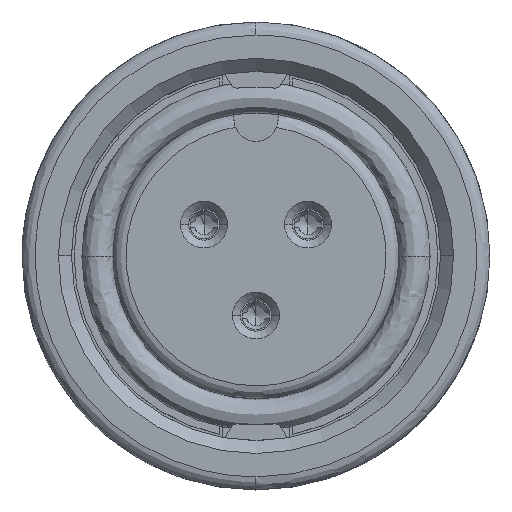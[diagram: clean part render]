
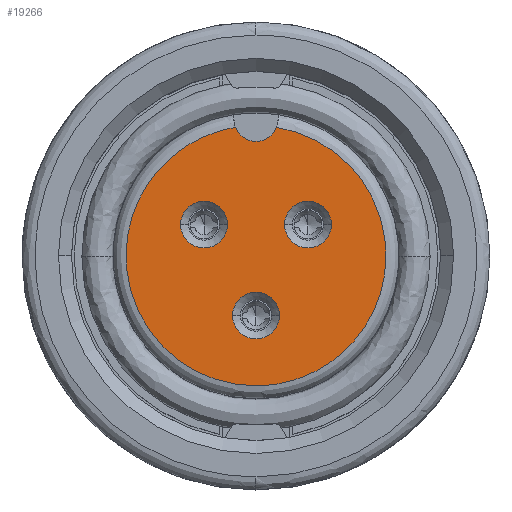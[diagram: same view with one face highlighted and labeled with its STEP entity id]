
A CAD part, top view. The second image highlights one B-rep face of the part: STEP entity #19266.
In plain terms, the highlighted planar face has unit normal (0, 0, 1).
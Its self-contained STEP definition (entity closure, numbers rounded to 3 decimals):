
#1035 = EDGE_CURVE ( 'NONE', #3845, #6038, #11903, .T. ) ;
#1093 = CARTESIAN_POINT ( 'NONE',  ( 0., -2.3, 0. ) ) ;
#1133 = CARTESIAN_POINT ( 'NONE',  ( 0.79, 4.937, 0. ) ) ;
#1218 = CARTESIAN_POINT ( 'NONE',  ( -8.571, -4.896, 0. ) ) ;
#1560 = VERTEX_POINT ( 'NONE', #10299 ) ;
#1724 = ORIENTED_EDGE ( 'NONE', *, *, #2228, .F. ) ;
#2228 = EDGE_CURVE ( 'NONE', #18572, #15203, #29807, .T. ) ;
#2408 = DIRECTION ( 'NONE',  ( 0., 0., 1. ) ) ;
#2431 = CIRCLE ( 'NONE', #22660, 0.85 ) ;
#2528 = DIRECTION ( 'NONE',  ( 0., 0., -1. ) ) ;
#2998 = CARTESIAN_POINT ( 'NONE',  ( -2.9, 1.2, 0. ) ) ;
#3011 = ORIENTED_EDGE ( 'NONE', *, *, #23021, .T. ) ;
#3637 = DIRECTION ( 'NONE',  ( 1., 0., 0. ) ) ;
#3811 = CARTESIAN_POINT ( 'NONE',  ( -0.79, 4.937, 0. ) ) ;
#3845 = VERTEX_POINT ( 'NONE', #14098 ) ;
#4371 = DIRECTION ( 'NONE',  ( 1., 0., 0. ) ) ;
#4484 = CARTESIAN_POINT ( 'NONE',  ( -2., 1.2, 0. ) ) ;
#4834 = CIRCLE ( 'NONE', #9663, 0.9 ) ;
#5277 = CIRCLE ( 'NONE', #17788, 0.9 ) ;
#5599 = ORIENTED_EDGE ( 'NONE', *, *, #24186, .T. ) ;
#6038 = VERTEX_POINT ( 'NONE', #2998 ) ;
#6067 = VERTEX_POINT ( 'NONE', #7510 ) ;
#6725 =( BOUNDED_CURVE ( )  B_SPLINE_CURVE ( 3, ( #26268, #1218, #7700, #21883 ),
 .UNSPECIFIED., .F., .F. ) 
 B_SPLINE_CURVE_WITH_KNOTS ( ( 4, 4 ),
 ( 0., 1. ),
 .UNSPECIFIED. ) 
 CURVE ( )  GEOMETRIC_REPRESENTATION_ITEM ( )  RATIONAL_B_SPLINE_CURVE ( ( 1., 0.39, 0.39, 1. ) ) 
 REPRESENTATION_ITEM ( '' )  );
#6938 = PLANE ( 'NONE',  #16672 ) ;
#7510 = CARTESIAN_POINT ( 'NONE',  ( 1.1, 1.2, 0. ) ) ;
#7551 = CARTESIAN_POINT ( 'NONE',  ( 0.79, 4.937, 0. ) ) ;
#7700 = CARTESIAN_POINT ( 'NONE',  ( -9.194, 3.592, 0. ) ) ;
#7703 = CIRCLE ( 'NONE', #21677, 0.9 ) ;
#7936 = CARTESIAN_POINT ( 'NONE',  ( -0.061, -5., 0. ) ) ;
#8185 = EDGE_CURVE ( 'NONE', #1560, #24834, #19243, .T. ) ;
#8597 = ORIENTED_EDGE ( 'NONE', *, *, #8185, .T. ) ;
#8659 = VERTEX_POINT ( 'NONE', #3811 ) ;
#8747 = FACE_BOUND ( 'NONE', #15633, .T. ) ;
#8749 = DIRECTION ( 'NONE',  ( 0., 0., -1. ) ) ;
#9085 = EDGE_LOOP ( 'NONE', ( #3011, #12628 ) ) ;
#9100 = EDGE_CURVE ( 'NONE', #24834, #1560, #5277, .T. ) ;
#9507 = AXIS2_PLACEMENT_3D ( 'NONE', #13004, #17237, #3637 ) ;
#9663 = AXIS2_PLACEMENT_3D ( 'NONE', #29401, #17923, #15817 ) ;
#9718 = CARTESIAN_POINT ( 'NONE',  ( 2.9, 1.2, 0. ) ) ;
#10127 = ORIENTED_EDGE ( 'NONE', *, *, #21445, .T. ) ;
#10136 = DIRECTION ( 'NONE',  ( 1., 0., 0. ) ) ;
#10299 = CARTESIAN_POINT ( 'NONE',  ( 0.9, -2.3, 0. ) ) ;
#10709 = CARTESIAN_POINT ( 'NONE',  ( -0.061, -5., 0. ) ) ;
#11903 = CIRCLE ( 'NONE', #9507, 0.9 ) ;
#11973 = ORIENTED_EDGE ( 'NONE', *, *, #21780, .T. ) ;
#12554 = DIRECTION ( 'NONE',  ( 0., 0., -1. ) ) ;
#12628 = ORIENTED_EDGE ( 'NONE', *, *, #1035, .T. ) ;
#13004 = CARTESIAN_POINT ( 'NONE',  ( -2., 1.2, 0. ) ) ;
#13490 = AXIS2_PLACEMENT_3D ( 'NONE', #29440, #8749, #4371 ) ;
#13875 = CARTESIAN_POINT ( 'NONE',  ( 0.001, -0.031, 0. ) ) ;
#14098 = CARTESIAN_POINT ( 'NONE',  ( -1.1, 1.2, 0. ) ) ;
#15203 = VERTEX_POINT ( 'NONE', #7936 ) ;
#15416 = VERTEX_POINT ( 'NONE', #9718 ) ;
#15633 = EDGE_LOOP ( 'NONE', ( #11973, #10127 ) ) ;
#15817 = DIRECTION ( 'NONE',  ( 1., 0., 0. ) ) ;
#16002 = FACE_OUTER_BOUND ( 'NONE', #20745, .T. ) ;
#16672 = AXIS2_PLACEMENT_3D ( 'NONE', #13875, #2408, #29438 ) ;
#17183 = DIRECTION ( 'NONE',  ( 0., 0., -1. ) ) ;
#17237 = DIRECTION ( 'NONE',  ( 0., 0., -1. ) ) ;
#17788 = AXIS2_PLACEMENT_3D ( 'NONE', #1093, #12554, #10136 ) ;
#17923 = DIRECTION ( 'NONE',  ( 0., 0., -1. ) ) ;
#18380 = DIRECTION ( 'NONE',  ( 1., 0., 0. ) ) ;
#18549 = FACE_BOUND ( 'NONE', #9085, .T. ) ;
#18572 = VERTEX_POINT ( 'NONE', #1133 ) ;
#19243 = CIRCLE ( 'NONE', #27418, 0.9 ) ;
#19266 = ADVANCED_FACE ( 'NONE', ( #25350, #18549, #8747, #16002 ), #6938, .T. ) ;
#20266 = CIRCLE ( 'NONE', #13490, 0.9 ) ;
#20458 = CARTESIAN_POINT ( 'NONE',  ( 0., 5.25, 0. ) ) ;
#20628 = ORIENTED_EDGE ( 'NONE', *, *, #29786, .F. ) ;
#20745 = EDGE_LOOP ( 'NONE', ( #1724, #5599, #20628 ) ) ;
#20935 = EDGE_LOOP ( 'NONE', ( #27540, #8597 ) ) ;
#21445 = EDGE_CURVE ( 'NONE', #15416, #6067, #20266, .T. ) ;
#21677 = AXIS2_PLACEMENT_3D ( 'NONE', #4484, #2528, #18380 ) ;
#21780 = EDGE_CURVE ( 'NONE', #6067, #15416, #4834, .T. ) ;
#21883 = CARTESIAN_POINT ( 'NONE',  ( -0.79, 4.937, 0. ) ) ;
#22660 = AXIS2_PLACEMENT_3D ( 'NONE', #20458, #29664, #29364 ) ;
#22974 = CARTESIAN_POINT ( 'NONE',  ( -0.9, -2.3, 0. ) ) ;
#23021 = EDGE_CURVE ( 'NONE', #6038, #3845, #7703, .T. ) ;
#24186 = EDGE_CURVE ( 'NONE', #18572, #8659, #2431, .T. ) ;
#24834 = VERTEX_POINT ( 'NONE', #22974 ) ;
#25350 = FACE_BOUND ( 'NONE', #20935, .T. ) ;
#26268 = CARTESIAN_POINT ( 'NONE',  ( -0.061, -5., 0. ) ) ;
#26402 = DIRECTION ( 'NONE',  ( 1., 0., 0. ) ) ;
#26574 = CARTESIAN_POINT ( 'NONE',  ( 8.638, -5.106, 0. ) ) ;
#27012 = CARTESIAN_POINT ( 'NONE',  ( 9.38, 3.562, 0. ) ) ;
#27418 = AXIS2_PLACEMENT_3D ( 'NONE', #28669, #17183, #26402 ) ;
#27540 = ORIENTED_EDGE ( 'NONE', *, *, #9100, .T. ) ;
#28669 = CARTESIAN_POINT ( 'NONE',  ( 0., -2.3, 0. ) ) ;
#29364 = DIRECTION ( 'NONE',  ( 1., 0., 0. ) ) ;
#29401 = CARTESIAN_POINT ( 'NONE',  ( 2., 1.2, 0. ) ) ;
#29438 = DIRECTION ( 'NONE',  ( 1., 0., 0. ) ) ;
#29440 = CARTESIAN_POINT ( 'NONE',  ( 2., 1.2, 0. ) ) ;
#29664 = DIRECTION ( 'NONE',  ( 0., 0., -1. ) ) ;
#29786 = EDGE_CURVE ( 'NONE', #15203, #8659, #6725, .T. ) ;
#29807 =( BOUNDED_CURVE ( )  B_SPLINE_CURVE ( 3, ( #7551, #27012, #26574, #10709 ),
 .UNSPECIFIED., .F., .T. ) 
 B_SPLINE_CURVE_WITH_KNOTS ( ( 4, 4 ),
 ( 0., 1. ),
 .UNSPECIFIED. ) 
 CURVE ( )  GEOMETRIC_REPRESENTATION_ITEM ( )  RATIONAL_B_SPLINE_CURVE ( ( 1., 0.382, 0.382, 1. ) ) 
 REPRESENTATION_ITEM ( '' )  );
